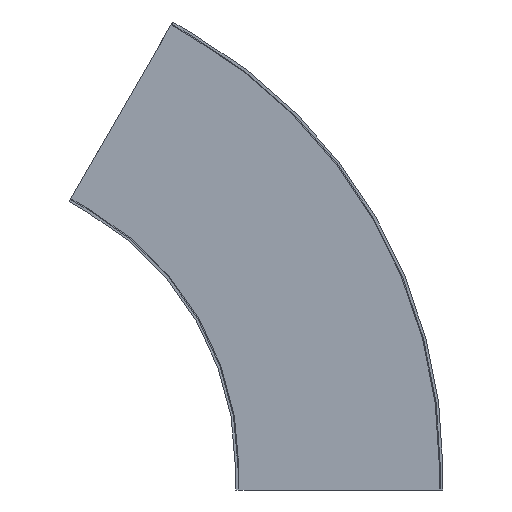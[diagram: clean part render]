
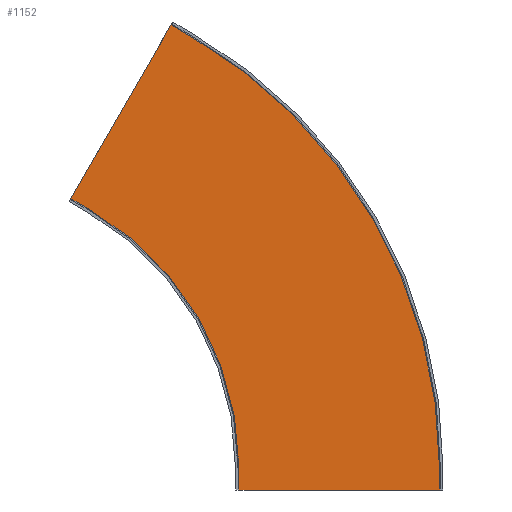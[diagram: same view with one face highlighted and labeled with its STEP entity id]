
A CAD part, front view. The second image highlights one B-rep face of the part: STEP entity #1152.
In plain terms, the highlighted planar face has unit normal (0, -1, 0).
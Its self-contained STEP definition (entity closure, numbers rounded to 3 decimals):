
#6 = DIRECTION ( 'NONE',  ( 0.866, 0., -0.5 ) ) ;
#31 = ORIENTED_EDGE ( 'NONE', *, *, #1472, .F. ) ;
#39 = PLANE ( 'NONE',  #2456 ) ;
#63 = VERTEX_POINT ( 'NONE', #744 ) ;
#120 = CARTESIAN_POINT ( 'NONE',  ( 1201.3, -68.25, -52.5 ) ) ;
#132 = AXIS2_PLACEMENT_3D ( 'NONE', #2444, #2217, #1075 ) ;
#180 = EDGE_CURVE ( 'NONE', #2404, #257, #2467, .T. ) ;
#212 = VERTEX_POINT ( 'NONE', #1166 ) ;
#225 = CIRCLE ( 'NONE', #1136, 1201.3 ) ;
#257 = VERTEX_POINT ( 'NONE', #1538 ) ;
#289 = CARTESIAN_POINT ( 'NONE',  ( 0., -68.25, 0. ) ) ;
#380 = VECTOR ( 'NONE', #1440, 1000. ) ;
#394 = CARTESIAN_POINT ( 'NONE',  ( 555.184, -68.25, 1066.606 ) ) ;
#475 = ORIENTED_EDGE ( 'NONE', *, *, #1057, .F. ) ;
#480 = DIRECTION ( 'NONE',  ( 0., 1., 0. ) ) ;
#594 = CARTESIAN_POINT ( 'NONE',  ( 313.884, -68.25, 648.662 ) ) ;
#632 = DIRECTION ( 'NONE',  ( -1., 0., 0. ) ) ;
#744 = CARTESIAN_POINT ( 'NONE',  ( 555.184, -68.25, 1066.606 ) ) ;
#745 = CARTESIAN_POINT ( 'NONE',  ( 718.7, -68.25, -52.5 ) ) ;
#784 = LINE ( 'NONE', #2189, #1307 ) ;
#857 = EDGE_CURVE ( 'NONE', #257, #2060, #1370, .T. ) ;
#876 = VERTEX_POINT ( 'NONE', #120 ) ;
#893 = ORIENTED_EDGE ( 'NONE', *, *, #857, .T. ) ;
#895 = VECTOR ( 'NONE', #6, 1000. ) ;
#950 = EDGE_LOOP ( 'NONE', ( #893, #1804, #1168, #1220, #31, #475, #1631, #2094 ) ) ;
#1006 = DIRECTION ( 'NONE',  ( 0., 1., 0. ) ) ;
#1054 = DIRECTION ( 'NONE',  ( 0.5, 0., 0.866 ) ) ;
#1057 = EDGE_CURVE ( 'NONE', #63, #2050, #1559, .T. ) ;
#1075 = DIRECTION ( 'NONE',  ( -1., 0., 0. ) ) ;
#1136 = AXIS2_PLACEMENT_3D ( 'NONE', #289, #480, #2210 ) ;
#1152 = ADVANCED_FACE ( 'NONE', ( #2420 ), #39, .F. ) ;
#1157 = VECTOR ( 'NONE', #2084, 1000. ) ;
#1166 = CARTESIAN_POINT ( 'NONE',  ( 1201.3, -68.25, 0. ) ) ;
#1168 = ORIENTED_EDGE ( 'NONE', *, *, #1312, .F. ) ;
#1220 = ORIENTED_EDGE ( 'NONE', *, *, #1747, .T. ) ;
#1267 = EDGE_CURVE ( 'NONE', #2404, #63, #784, .T. ) ;
#1286 = CARTESIAN_POINT ( 'NONE',  ( 600.65, -68.25, 1040.356 ) ) ;
#1307 = VECTOR ( 'NONE', #1054, 1000. ) ;
#1312 = EDGE_CURVE ( 'NONE', #876, #2140, #1738, .T. ) ;
#1315 = CARTESIAN_POINT ( 'NONE',  ( 718.7, -68.25, 0. ) ) ;
#1326 = CARTESIAN_POINT ( 'NONE',  ( 718.7, -68.25, -52.5 ) ) ;
#1370 = CIRCLE ( 'NONE', #132, 718.7 ) ;
#1438 = VECTOR ( 'NONE', #1529, 1000. ) ;
#1440 = DIRECTION ( 'NONE',  ( 0., 0., 1. ) ) ;
#1472 = EDGE_CURVE ( 'NONE', #2050, #212, #225, .T. ) ;
#1529 = DIRECTION ( 'NONE',  ( 0.866, 0., -0.5 ) ) ;
#1538 = CARTESIAN_POINT ( 'NONE',  ( 359.35, -68.25, 622.412 ) ) ;
#1559 = LINE ( 'NONE', #394, #1438 ) ;
#1577 = LINE ( 'NONE', #745, #1157 ) ;
#1631 = ORIENTED_EDGE ( 'NONE', *, *, #1267, .F. ) ;
#1675 = VECTOR ( 'NONE', #632, 1000. ) ;
#1738 = LINE ( 'NONE', #2375, #1675 ) ;
#1747 = EDGE_CURVE ( 'NONE', #876, #212, #2046, .T. ) ;
#1804 = ORIENTED_EDGE ( 'NONE', *, *, #1926, .F. ) ;
#1821 = CARTESIAN_POINT ( 'NONE',  ( 1201.3, -68.25, -52.5 ) ) ;
#1926 = EDGE_CURVE ( 'NONE', #2140, #2060, #1577, .T. ) ;
#1947 = CARTESIAN_POINT ( 'NONE',  ( 313.884, -68.25, 648.662 ) ) ;
#2046 = LINE ( 'NONE', #1821, #380 ) ;
#2050 = VERTEX_POINT ( 'NONE', #1286 ) ;
#2060 = VERTEX_POINT ( 'NONE', #1315 ) ;
#2084 = DIRECTION ( 'NONE',  ( 0., 0., 1. ) ) ;
#2094 = ORIENTED_EDGE ( 'NONE', *, *, #180, .T. ) ;
#2140 = VERTEX_POINT ( 'NONE', #1326 ) ;
#2189 = CARTESIAN_POINT ( 'NONE',  ( -45.466, -68.25, 26.25 ) ) ;
#2210 = DIRECTION ( 'NONE',  ( -1., 0., 0. ) ) ;
#2217 = DIRECTION ( 'NONE',  ( 0., 1., 0. ) ) ;
#2318 = CARTESIAN_POINT ( 'NONE',  ( 359.35, -68.25, 622.412 ) ) ;
#2338 = DIRECTION ( 'NONE',  ( -1., 0., 0. ) ) ;
#2375 = CARTESIAN_POINT ( 'NONE',  ( 0., -68.25, -52.5 ) ) ;
#2404 = VERTEX_POINT ( 'NONE', #1947 ) ;
#2420 = FACE_OUTER_BOUND ( 'NONE', #950, .T. ) ;
#2444 = CARTESIAN_POINT ( 'NONE',  ( 0., -68.25, 0. ) ) ;
#2456 = AXIS2_PLACEMENT_3D ( 'NONE', #2318, #1006, #2338 ) ;
#2467 = LINE ( 'NONE', #594, #895 ) ;
